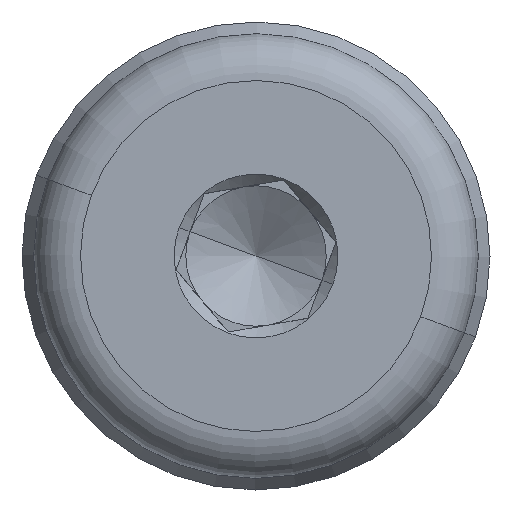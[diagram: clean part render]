
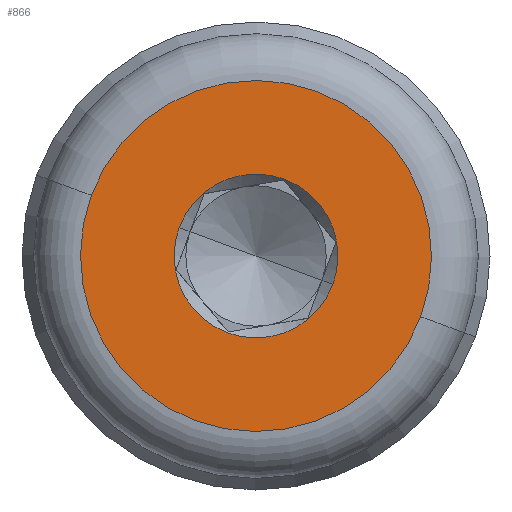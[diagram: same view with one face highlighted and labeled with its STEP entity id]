
A CAD part, front view. The second image highlights one B-rep face of the part: STEP entity #866.
In plain terms, the highlighted planar face has unit normal (0, -1, 0).
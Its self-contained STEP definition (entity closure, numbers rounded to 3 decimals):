
#169=CARTESIAN_POINT('',(-48.,-22.,-48.));
#170=DIRECTION('',(0.,-1.,0.));
#171=DIRECTION('',(0.938,0.,-0.345));
#172=AXIS2_PLACEMENT_3D('',#169,#170,#171);
#174=CARTESIAN_POINT('',(-48.,-22.,-48.));
#175=DIRECTION('',(0.,-1.,0.));
#176=DIRECTION('',(-0.938,0.,0.345));
#177=AXIS2_PLACEMENT_3D('',#174,#175,#176);
#179=CARTESIAN_POINT('',(-48.,-22.,-48.));
#180=DIRECTION('',(0.,1.,0.));
#181=DIRECTION('',(0.938,0.,-0.345));
#182=AXIS2_PLACEMENT_3D('',#179,#180,#181);
#184=CARTESIAN_POINT('',(-48.,-22.,-48.));
#185=DIRECTION('',(0.,1.,0.));
#186=DIRECTION('',(-0.938,0.,0.345));
#187=AXIS2_PLACEMENT_3D('',#184,#185,#186);
#532=CARTESIAN_POINT('',(-51.284,-22.,-46.791));
#534=VERTEX_POINT('',#532);
#586=CARTESIAN_POINT('',(-55.038,-22.,-45.409));
#587=CARTESIAN_POINT('',(-40.962,-22.,-50.591));
#588=VERTEX_POINT('',#586);
#589=VERTEX_POINT('',#587);
#592=CARTESIAN_POINT('',(-44.716,-22.,-49.209));
#593=VERTEX_POINT('',#592);
#851=CARTESIAN_POINT('',(-50.591,-22.,-55.038));
#852=DIRECTION('',(0.,1.,0.));
#853=DIRECTION('',(-0.938,0.,0.345));
#854=AXIS2_PLACEMENT_3D('',#851,#852,#853);
#855=PLANE('',#854);
#857=ORIENTED_EDGE('',*,*,#856,.F.);
#859=ORIENTED_EDGE('',*,*,#858,.F.);
#860=EDGE_LOOP('',(#857,#859));
#861=FACE_OUTER_BOUND('',#860,.F.);
#862=ORIENTED_EDGE('',*,*,#845,.F.);
#863=ORIENTED_EDGE('',*,*,#824,.F.);
#864=EDGE_LOOP('',(#862,#863));
#865=FACE_BOUND('',#864,.F.);
#866=ADVANCED_FACE('',(#861,#865),#855,.F.);
#173=CIRCLE('',#172,7.5);
#178=CIRCLE('',#177,7.5);
#183=CIRCLE('',#182,3.5);
#188=CIRCLE('',#187,3.5);
#824=EDGE_CURVE('',#534,#593,#188,.T.);
#845=EDGE_CURVE('',#593,#534,#183,.T.);
#856=EDGE_CURVE('',#589,#588,#173,.T.);
#858=EDGE_CURVE('',#588,#589,#178,.T.);
